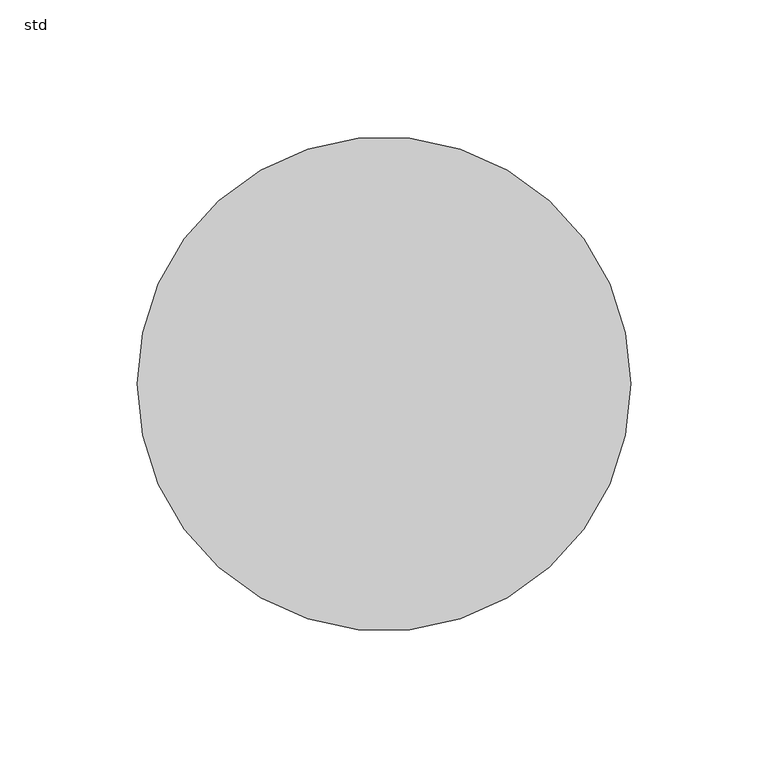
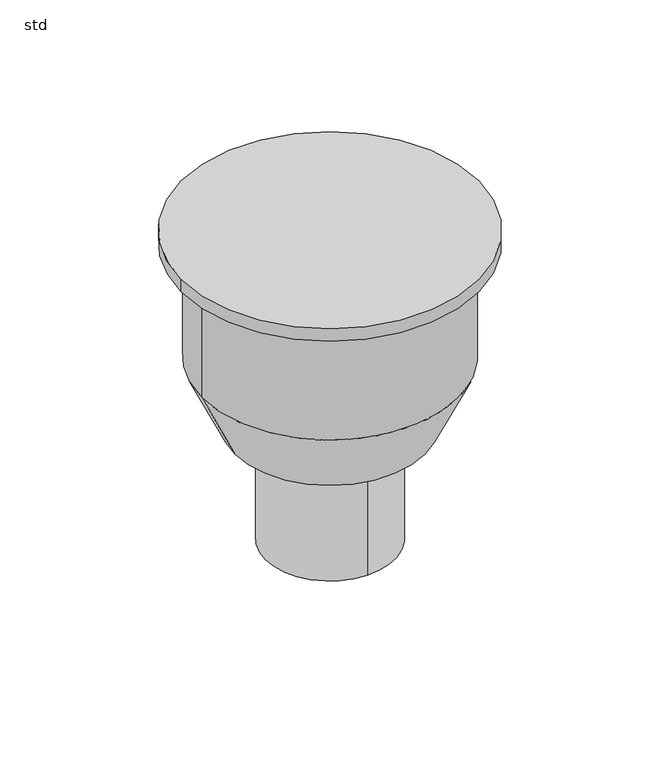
"""IFC4 building model written with IfcOpenShell, lengths in millimetres: sanitary terminal geometry, ZZZ_do_not_use_PF_CI_UN_gully body_ACO : std."""

from ifc_helpers import new_model, si_unit, frame, origin, origin_with_axes, place, context, project, spatial, polyline, circle_curve, source, transform, mapped, element, save
from ifc_brep_helpers import plane_surface, cylinder_surface, revolved_surface, advanced_brep


def std_819ccc4d(model_context):
    return source(origin(), model_context, "Body", "AdvancedBrep", [
        advanced_brep(
        [(57.4487707, 0.0, -123.0), (-57.4487707, 0.0, -123.0), (-77.5, 0.0, -80.0), (77.5, 0.0, -80.0), (39.0, 0.0, -123.0), (0.0, 39.0, -123.0), (-39.0, 0.0, -123.0), (0.0, -39.0, -123.0), (77.5, 0.0, -8.0), (-77.5, 0.0, -8.0), (0.0, -39.0, -197.0), (0.0, 39.0, -197.0), (-90.0, 0.0, -8.0), (90.0, 0.0, -8.0), (-90.0, 0.0, 0.0), (90.0, 0.0, 0.0)],
        [
            (0, 1, circle_curve(frame((0.0, 0.0, -123.0), z_axis=(0.0, 0.0, 1.0), x_axis=(-1.0, 0.0, 0.0)), 57.4487707)),
            (1, 2),
            (2, 3, circle_curve(frame((0.0, 0.0, -80.0), z_axis=(0.0, 0.0, -1.0), x_axis=(-1.0, 0.0, 0.0)), 77.5)),
            (3, 0),
            (1, 0, circle_curve(frame((0.0, 0.0, -123.0), z_axis=(0.0, 0.0, 1.0), x_axis=(-1.0, 0.0, 0.0)), 57.4487707)),
            (3, 2, circle_curve(frame((0.0, 0.0, -80.0), z_axis=(0.0, 0.0, -1.0), x_axis=(-1.0, 0.0, 0.0)), 77.5)),
            (0, 4),
            (4, 5, circle_curve(frame((0.0, 0.0, -123.0), z_axis=(0.0, 0.0, 1.0), x_axis=(0.0, 1.0, 0.0)), 39.0)),
            (5, 6, circle_curve(frame((0.0, 0.0, -123.0), z_axis=(0.0, 0.0, 1.0), x_axis=(0.0, 1.0, 0.0)), 39.0)),
            (6, 1),
            (6, 7, circle_curve(frame((0.0, 0.0, -123.0), z_axis=(0.0, 0.0, 1.0), x_axis=(0.0, 1.0, 0.0)), 39.0)),
            (7, 4, circle_curve(frame((0.0, 0.0, -123.0), z_axis=(0.0, 0.0, 1.0), x_axis=(0.0, 1.0, 0.0)), 39.0)),
            (3, 8),
            (8, 9, circle_curve(frame((0.0, 0.0, -8.0), z_axis=(0.0, 0.0, -1.0), x_axis=(1.0, 0.0, 0.0)), 77.5)),
            (9, 2),
            (9, 8, circle_curve(frame((0.0, 0.0, -8.0), z_axis=(0.0, 0.0, -1.0), x_axis=(1.0, 0.0, 0.0)), 77.5)),
            (10, 11, circle_curve(frame((0.0, 0.0, -197.0), z_axis=(0.0, 0.0, -1.0), x_axis=(0.0, 1.0, 0.0)), 39.0)),
            (11, 10, circle_curve(frame((0.0, 0.0, -197.0), z_axis=(0.0, 0.0, -1.0), x_axis=(0.0, 1.0, 0.0)), 39.0)),
            (10, 7),
            (5, 11),
            (12, 13, circle_curve(frame((0.0, 0.0, -8.0), z_axis=(0.0, 0.0, -1.0), x_axis=(1.0, 0.0, 0.0)), 90.0)),
            (13, 12, circle_curve(frame((0.0, 0.0, -8.0), z_axis=(0.0, 0.0, -1.0), x_axis=(1.0, 0.0, 0.0)), 90.0)),
            (14, 15, circle_curve(origin_with_axes(), 90.0)),
            (15, 14, circle_curve(origin_with_axes(), 90.0)),
            (13, 15),
            (14, 12),
        ],
        [
            revolved_surface(polyline([(-77.5, 0.0, -80.0), (-57.4487707, 0.0, -123.0)]), (0.0, 0.0, -77.7894115), (0.0, 0.0, -1.0)),
            plane_surface(frame((0.0, 0.0, -123.0), z_axis=(0.0, 0.0, -1.0), x_axis=(-1.0, 0.0, 0.0))),
            cylinder_surface(frame((0.0, 0.0, -80.0), z_axis=(0.0, 0.0, 1.0), x_axis=(1.0, 0.0, 0.0)), 77.5),
            plane_surface(frame((0.0, 39.0, -197.0), z_axis=(0.0, 0.0, -1.0), x_axis=(1.0, 0.0, 0.0))),
            cylinder_surface(frame((0.0, 0.0, -123.0), z_axis=(0.0, 0.0, -1.0), x_axis=(0.0, 1.0, 0.0)), 39.0),
            plane_surface(frame((90.0, 0.0, -8.0), z_axis=(0.0, 0.0, -1.0), x_axis=(0.0, -1.0, 0.0))),
            plane_surface(frame((90.0, 0.0, 0.0), z_axis=(0.0, 0.0, 1.0), x_axis=(0.0, 1.0, 0.0))),
            cylinder_surface(frame((0.0, 0.0, -8.0), z_axis=(0.0, 0.0, 1.0), x_axis=(1.0, 0.0, 0.0)), 90.0),
        ],
        [
            (0, [[1, 2, 3, 4]]),
            (0, [[-2, 5, -4, 6]]),
            (1, [[-1, 7, 8, 9, 10]]),
            (1, [[-5, -10, 11, 12, -7]]),
            (2, [[-6, 13, 14, 15]]),
            (2, [[-3, -15, 16, -13]]),
            (3, [[17, 18]]),
            (4, [[-17, 19, -11, -9, 20]]),
            (4, [[-18, -20, -8, -12, -19]]),
            (5, [[21, 22], [-14, -16]]),
            (6, [[23, 24]]),
            (7, [[-22, 25, -23, 26]]),
            (7, [[-21, -26, -24, -25]]),
        ],
    ),
    ])


if __name__ == "__main__":
    model = new_model("IFC4")
    model_context = context("Model", 3, world=origin())
    ifc_project = project(units=[si_unit("LENGTHUNIT", "METRE", prefix="MILLI")], contexts=[model_context])
    site = spatial("IfcSite", under=ifc_project)
    building = spatial("IfcBuilding", under=site)
    placement = place(None, origin())
    std_shape = std_819ccc4d(model_context)
    element("IfcSanitaryTerminal", 1, ObjectType="ZZZ_do_not_use_PF_CI_UN_gully body_ACO : std", at=placement, inside=building, context=model_context, shape_type="MappedRepresentation", body=[
        mapped(std_shape, transform((0.0, 0.0, 0.0), x_axis=(1.0, 0.0, 0.0), y_axis=(0.0, 1.0, 0.0), z_axis=(0.0, 0.0, 1.0))),
    ])
    save(model, "model.ifc")
